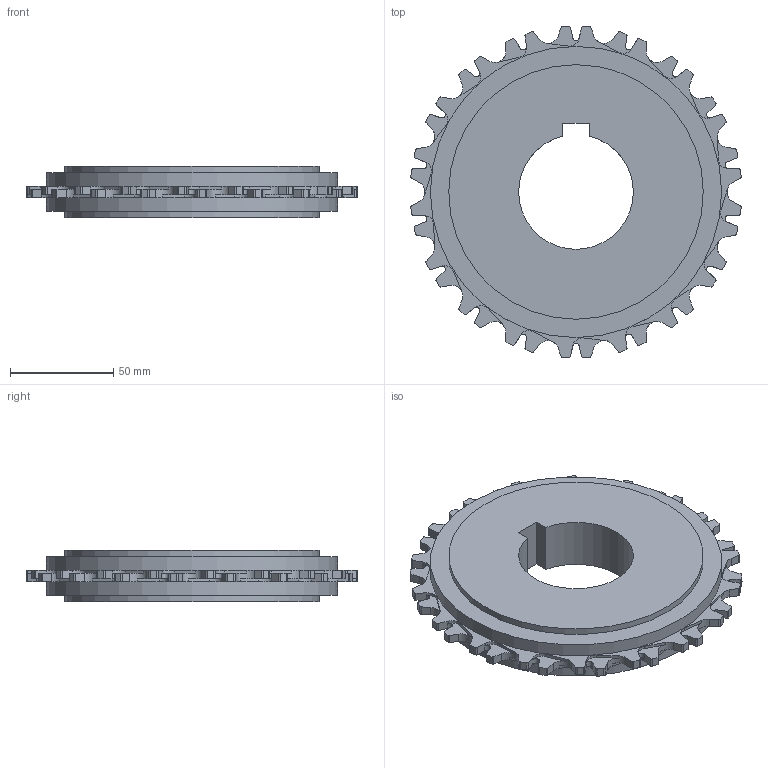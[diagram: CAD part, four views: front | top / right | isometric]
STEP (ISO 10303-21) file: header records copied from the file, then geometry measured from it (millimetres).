
FILE_DESCRIPTION((''),'2;1');
FILE_NAME('S900_SPROCKET_61X2-3_16','2010-11-11T',('rklein'),('INTRALOX'),'PRO/ENGINEER BY PARAMETRIC TECHNOLOGY CORPORATION, 2009460','PRO/ENGINEER BY PARAMETRIC TECHNOLOGY CORPORATION, 2009460','');
FILE_SCHEMA(('CONFIG_CONTROL_DESIGN'));
Length unit declared in the file: inch
Products named in the file (1): S900_SPROCKET_61X2-3_16
Bounding box: 160.2 x 160.37 x 24.89 mm (x, y, z)
Volume: 316501.4 mm3; surface area: 49047.7 mm2
Topology: 1 solids, 1 shells, 342 faces, 1008 edges, 672 vertices
Faces by surface type: plane 189, cylinder 153
Entity records: 11538 total; most frequent: DIRECTION 2034, CARTESIAN_POINT 2022, ORIENTED_EDGE 2016, EDGE_CURVE 1008, AXIS2_PLACEMENT_3D 684, VERTEX_POINT 672, VECTOR 666, LINE 666
